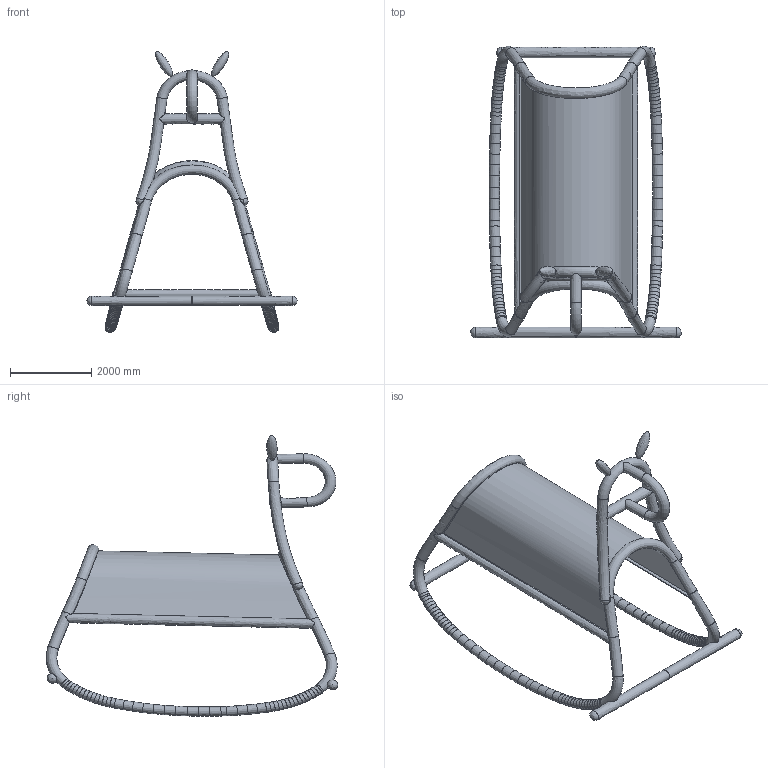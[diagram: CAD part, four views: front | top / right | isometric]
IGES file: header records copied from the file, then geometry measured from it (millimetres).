
Global section: file name: \\192.168.4.99\ufficio_tecnico\02 - PRODOTTI IN PRODUZIONE\FURIA\03 - DISEGNI 3D\MODELLI 3D X SITO AGGIORNATI\FURIA.igs; native system: Rhinoceros ( May 22 2017 ); preprocessor: Trout Lake IGES 012 May 22 2017; date: 190520.102212; units: centimetre
Bounding box: 5200 x 7192.32 x 6919.15 mm (x, y, z)
Surface area: 104572031.1 mm2 (no closed solid volume)
Topology: 0 solids, 0 shells, 211 faces, 2152 edges, 2044 vertices
Faces by surface type: bspline 211
